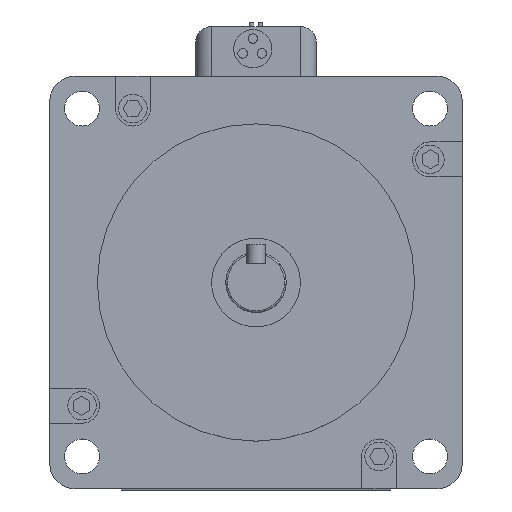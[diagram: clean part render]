
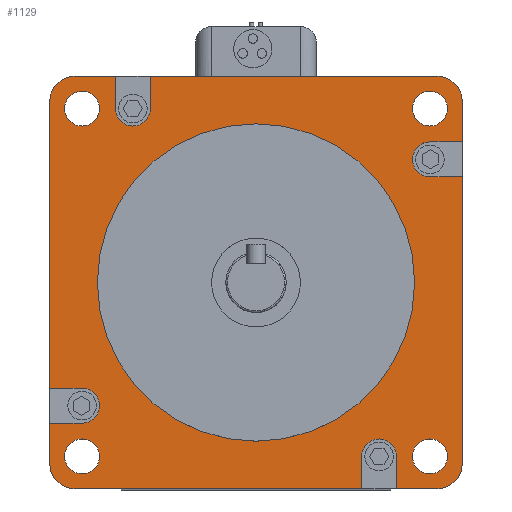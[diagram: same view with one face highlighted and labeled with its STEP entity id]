
A CAD part, top view. The second image highlights one B-rep face of the part: STEP entity #1129.
In plain terms, the highlighted planar face has unit normal (0, 0, 1).
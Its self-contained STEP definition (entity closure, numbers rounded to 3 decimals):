
#361=LINE('',#5838,#741);
#362=LINE('',#5843,#742);
#363=LINE('',#5845,#743);
#364=LINE('',#5849,#744);
#365=LINE('',#5851,#745);
#366=LINE('',#5855,#746);
#367=LINE('',#5857,#747);
#368=LINE('',#5861,#748);
#369=LINE('',#5863,#749);
#370=LINE('',#5867,#750);
#371=LINE('',#5869,#751);
#372=LINE('',#5873,#752);
#373=LINE('',#5875,#753);
#374=LINE('',#5879,#754);
#375=LINE('',#5881,#755);
#376=LINE('',#5885,#756);
#741=VECTOR('',#4547,1.);
#742=VECTOR('',#4550,1.);
#743=VECTOR('',#4551,1.);
#744=VECTOR('',#4554,1.);
#745=VECTOR('',#4555,1.);
#746=VECTOR('',#4558,1.);
#747=VECTOR('',#4559,1.);
#748=VECTOR('',#4562,1.);
#749=VECTOR('',#4563,1.);
#750=VECTOR('',#4566,1.);
#751=VECTOR('',#4567,1.);
#752=VECTOR('',#4570,1.);
#753=VECTOR('',#4571,1.);
#754=VECTOR('',#4574,1.);
#755=VECTOR('',#4575,1.);
#756=VECTOR('',#4578,1.);
#1129=ADVANCED_FACE('',(#1545,#1546,#1547,#1548,#1549,#1550),#1361,.T.);
#1361=PLANE('',#4072);
#1545=FACE_BOUND('',#1705,.T.);
#1546=FACE_BOUND('',#1706,.T.);
#1547=FACE_BOUND('',#1707,.T.);
#1548=FACE_BOUND('',#1708,.T.);
#1549=FACE_BOUND('',#1709,.T.);
#1550=FACE_BOUND('',#1710,.T.);
#1705=EDGE_LOOP('',(#2107,#2108,#2109,#2110,#2111,#2112,#2113,#2114,#2115,
#2116,#2117,#2118,#2119,#2120,#2121,#2122,#2123,#2124,#2125,#2126,#2127,
#2128,#2129,#2130));
#1706=EDGE_LOOP('',(#2131));
#1707=EDGE_LOOP('',(#2132));
#1708=EDGE_LOOP('',(#2133));
#1709=EDGE_LOOP('',(#2134));
#1710=EDGE_LOOP('',(#2135));
#2107=ORIENTED_EDGE('',*,*,#3487,.T.);
#2108=ORIENTED_EDGE('',*,*,#3488,.T.);
#2109=ORIENTED_EDGE('',*,*,#3489,.T.);
#2110=ORIENTED_EDGE('',*,*,#3490,.F.);
#2111=ORIENTED_EDGE('',*,*,#3491,.F.);
#2112=ORIENTED_EDGE('',*,*,#3492,.F.);
#2113=ORIENTED_EDGE('',*,*,#3493,.T.);
#2114=ORIENTED_EDGE('',*,*,#3494,.T.);
#2115=ORIENTED_EDGE('',*,*,#3495,.T.);
#2116=ORIENTED_EDGE('',*,*,#3496,.F.);
#2117=ORIENTED_EDGE('',*,*,#3497,.F.);
#2118=ORIENTED_EDGE('',*,*,#3498,.F.);
#2119=ORIENTED_EDGE('',*,*,#3499,.T.);
#2120=ORIENTED_EDGE('',*,*,#3500,.T.);
#2121=ORIENTED_EDGE('',*,*,#3501,.T.);
#2122=ORIENTED_EDGE('',*,*,#3502,.T.);
#2123=ORIENTED_EDGE('',*,*,#3503,.T.);
#2124=ORIENTED_EDGE('',*,*,#3504,.T.);
#2125=ORIENTED_EDGE('',*,*,#3505,.T.);
#2126=ORIENTED_EDGE('',*,*,#3506,.T.);
#2127=ORIENTED_EDGE('',*,*,#3507,.T.);
#2128=ORIENTED_EDGE('',*,*,#3508,.F.);
#2129=ORIENTED_EDGE('',*,*,#3509,.F.);
#2130=ORIENTED_EDGE('',*,*,#3510,.F.);
#2131=ORIENTED_EDGE('',*,*,#3511,.T.);
#2132=ORIENTED_EDGE('',*,*,#3512,.F.);
#2133=ORIENTED_EDGE('',*,*,#3513,.F.);
#2134=ORIENTED_EDGE('',*,*,#3514,.F.);
#2135=ORIENTED_EDGE('',*,*,#3515,.F.);
#3121=VERTEX_POINT('',#5839);
#3122=VERTEX_POINT('',#5840);
#3123=VERTEX_POINT('',#5842);
#3124=VERTEX_POINT('',#5844);
#3125=VERTEX_POINT('',#5846);
#3126=VERTEX_POINT('',#5848);
#3127=VERTEX_POINT('',#5850);
#3128=VERTEX_POINT('',#5852);
#3129=VERTEX_POINT('',#5854);
#3130=VERTEX_POINT('',#5856);
#3131=VERTEX_POINT('',#5858);
#3132=VERTEX_POINT('',#5860);
#3133=VERTEX_POINT('',#5862);
#3134=VERTEX_POINT('',#5864);
#3135=VERTEX_POINT('',#5866);
#3136=VERTEX_POINT('',#5868);
#3137=VERTEX_POINT('',#5870);
#3138=VERTEX_POINT('',#5872);
#3139=VERTEX_POINT('',#5874);
#3140=VERTEX_POINT('',#5876);
#3141=VERTEX_POINT('',#5878);
#3142=VERTEX_POINT('',#5880);
#3143=VERTEX_POINT('',#5882);
#3144=VERTEX_POINT('',#5884);
#3145=VERTEX_POINT('',#5887);
#3146=VERTEX_POINT('',#5889);
#3147=VERTEX_POINT('',#5891);
#3148=VERTEX_POINT('',#5893);
#3149=VERTEX_POINT('',#5895);
#3487=EDGE_CURVE('',#3121,#3122,#361,.T.);
#3488=EDGE_CURVE('',#3122,#3123,#3916,.T.);
#3489=EDGE_CURVE('',#3123,#3124,#362,.T.);
#3490=EDGE_CURVE('',#3125,#3124,#363,.T.);
#3491=EDGE_CURVE('',#3126,#3125,#3917,.T.);
#3492=EDGE_CURVE('',#3127,#3126,#364,.T.);
#3493=EDGE_CURVE('',#3127,#3128,#365,.T.);
#3494=EDGE_CURVE('',#3128,#3129,#3918,.T.);
#3495=EDGE_CURVE('',#3129,#3130,#366,.T.);
#3496=EDGE_CURVE('',#3131,#3130,#367,.T.);
#3497=EDGE_CURVE('',#3132,#3131,#3919,.T.);
#3498=EDGE_CURVE('',#3133,#3132,#368,.T.);
#3499=EDGE_CURVE('',#3133,#3134,#369,.T.);
#3500=EDGE_CURVE('',#3134,#3135,#3920,.T.);
#3501=EDGE_CURVE('',#3135,#3136,#370,.T.);
#3502=EDGE_CURVE('',#3136,#3137,#371,.T.);
#3503=EDGE_CURVE('',#3137,#3138,#3921,.T.);
#3504=EDGE_CURVE('',#3138,#3139,#372,.T.);
#3505=EDGE_CURVE('',#3139,#3140,#373,.T.);
#3506=EDGE_CURVE('',#3140,#3141,#3922,.T.);
#3507=EDGE_CURVE('',#3141,#3142,#374,.T.);
#3508=EDGE_CURVE('',#3143,#3142,#375,.T.);
#3509=EDGE_CURVE('',#3144,#3143,#3923,.T.);
#3510=EDGE_CURVE('',#3121,#3144,#376,.T.);
#3511=EDGE_CURVE('',#3145,#3145,#3924,.T.);
#3512=EDGE_CURVE('',#3146,#3146,#3925,.T.);
#3513=EDGE_CURVE('',#3147,#3147,#3926,.T.);
#3514=EDGE_CURVE('',#3148,#3148,#3927,.T.);
#3515=EDGE_CURVE('',#3149,#3149,#3928,.T.);
#3916=CIRCLE('',#4059,8.);
#3917=CIRCLE('',#4060,5.5);
#3918=CIRCLE('',#4061,8.);
#3919=CIRCLE('',#4062,5.5);
#3920=CIRCLE('',#4063,8.);
#3921=CIRCLE('',#4064,5.5);
#3922=CIRCLE('',#4065,8.);
#3923=CIRCLE('',#4066,5.5);
#3924=CIRCLE('',#4067,5.5);
#3925=CIRCLE('',#4068,5.5);
#3926=CIRCLE('',#4069,50.);
#3927=CIRCLE('',#4070,5.5);
#3928=CIRCLE('',#4071,5.5);
#4059=AXIS2_PLACEMENT_3D('',#5841,#4548,#4549);
#4060=AXIS2_PLACEMENT_3D('',#5847,#4552,#4553);
#4061=AXIS2_PLACEMENT_3D('',#5853,#4556,#4557);
#4062=AXIS2_PLACEMENT_3D('',#5859,#4560,#4561);
#4063=AXIS2_PLACEMENT_3D('',#5865,#4564,#4565);
#4064=AXIS2_PLACEMENT_3D('',#5871,#4568,#4569);
#4065=AXIS2_PLACEMENT_3D('',#5877,#4572,#4573);
#4066=AXIS2_PLACEMENT_3D('',#5883,#4576,#4577);
#4067=AXIS2_PLACEMENT_3D('',#5886,#4579,#4580);
#4068=AXIS2_PLACEMENT_3D('',#5888,#4581,#4582);
#4069=AXIS2_PLACEMENT_3D('',#5890,#4583,#4584);
#4070=AXIS2_PLACEMENT_3D('',#5892,#4585,#4586);
#4071=AXIS2_PLACEMENT_3D('',#5894,#4587,#4588);
#4072=AXIS2_PLACEMENT_3D('',#5896,#4589,#4590);
#4547=DIRECTION('',(-1.,0.,0.));
#4548=DIRECTION('',(0.,0.,1.));
#4549=DIRECTION('',(1.,0.,0.));
#4550=DIRECTION('',(0.,-1.,0.));
#4551=DIRECTION('',(-1.,0.,0.));
#4552=DIRECTION('',(0.,0.,1.));
#4553=DIRECTION('',(0.,1.,0.));
#4554=DIRECTION('',(1.,0.,0.));
#4555=DIRECTION('',(0.,-1.,0.));
#4556=DIRECTION('',(0.,0.,1.));
#4557=DIRECTION('',(1.,0.,0.));
#4558=DIRECTION('',(1.,0.,0.));
#4559=DIRECTION('',(0.,-1.,0.));
#4560=DIRECTION('',(0.,0.,1.));
#4561=DIRECTION('',(-1.,0.,0.));
#4562=DIRECTION('',(0.,1.,0.));
#4563=DIRECTION('',(1.,0.,0.));
#4564=DIRECTION('',(0.,0.,1.));
#4565=DIRECTION('',(1.,0.,0.));
#4566=DIRECTION('',(0.,1.,0.));
#4567=DIRECTION('',(-1.,0.,0.));
#4568=DIRECTION('',(0.,0.,-1.));
#4569=DIRECTION('',(0.,-1.,0.));
#4570=DIRECTION('',(1.,0.,0.));
#4571=DIRECTION('',(0.,1.,0.));
#4572=DIRECTION('',(0.,0.,1.));
#4573=DIRECTION('',(1.,0.,0.));
#4574=DIRECTION('',(-1.,0.,0.));
#4575=DIRECTION('',(0.,1.,0.));
#4576=DIRECTION('',(0.,0.,1.));
#4577=DIRECTION('',(1.,0.,0.));
#4578=DIRECTION('',(0.,-1.,0.));
#4579=DIRECTION('',(0.,0.,-1.));
#4580=DIRECTION('',(1.,0.,0.));
#4581=DIRECTION('',(0.,0.,1.));
#4582=DIRECTION('',(1.,0.,0.));
#4583=DIRECTION('',(0.,0.,1.));
#4584=DIRECTION('',(1.,0.,0.));
#4585=DIRECTION('',(0.,0.,1.));
#4586=DIRECTION('',(1.,0.,0.));
#4587=DIRECTION('',(0.,0.,1.));
#4588=DIRECTION('',(1.,0.,0.));
#4589=DIRECTION('',(0.,0.,1.));
#4590=DIRECTION('',(1.,0.,0.));
#5838=CARTESIAN_POINT('',(65.,65.,0.));
#5839=CARTESIAN_POINT('',(-44.3,65.,0.));
#5840=CARTESIAN_POINT('',(-57.,65.,0.));
#5841=CARTESIAN_POINT('',(-57.,57.,0.));
#5842=CARTESIAN_POINT('',(-65.,57.,0.));
#5843=CARTESIAN_POINT('',(-65.,65.,0.));
#5844=CARTESIAN_POINT('',(-65.,-33.3,0.));
#5845=CARTESIAN_POINT('',(-54.8,-33.3,0.));
#5846=CARTESIAN_POINT('',(-54.8,-33.3,0.));
#5847=CARTESIAN_POINT('',(-54.8,-38.8,0.));
#5848=CARTESIAN_POINT('',(-54.8,-44.3,0.));
#5849=CARTESIAN_POINT('',(-65.,-44.3,0.));
#5850=CARTESIAN_POINT('',(-65.,-44.3,0.));
#5851=CARTESIAN_POINT('',(-65.,65.,0.));
#5852=CARTESIAN_POINT('',(-65.,-57.,0.));
#5853=CARTESIAN_POINT('',(-57.,-57.,0.));
#5854=CARTESIAN_POINT('',(-57.,-65.,0.));
#5855=CARTESIAN_POINT('',(-65.,-65.,0.));
#5856=CARTESIAN_POINT('',(33.3,-65.,0.));
#5857=CARTESIAN_POINT('',(33.3,-54.8,0.));
#5858=CARTESIAN_POINT('',(33.3,-54.8,0.));
#5859=CARTESIAN_POINT('',(38.8,-54.8,0.));
#5860=CARTESIAN_POINT('',(44.3,-54.8,0.));
#5861=CARTESIAN_POINT('',(44.3,-65.,0.));
#5862=CARTESIAN_POINT('',(44.3,-65.,0.));
#5863=CARTESIAN_POINT('',(-65.,-65.,0.));
#5864=CARTESIAN_POINT('',(57.,-65.,0.));
#5865=CARTESIAN_POINT('',(57.,-57.,0.));
#5866=CARTESIAN_POINT('',(65.,-57.,0.));
#5867=CARTESIAN_POINT('',(65.,-65.,0.));
#5868=CARTESIAN_POINT('',(65.,33.3,0.));
#5869=CARTESIAN_POINT('',(65.,33.3,0.));
#5870=CARTESIAN_POINT('',(54.8,33.3,0.));
#5871=CARTESIAN_POINT('',(54.8,38.8,0.));
#5872=CARTESIAN_POINT('',(54.8,44.3,0.));
#5873=CARTESIAN_POINT('',(54.8,44.3,0.));
#5874=CARTESIAN_POINT('',(65.,44.3,0.));
#5875=CARTESIAN_POINT('',(65.,-65.,0.));
#5876=CARTESIAN_POINT('',(65.,57.,0.));
#5877=CARTESIAN_POINT('',(57.,57.,0.));
#5878=CARTESIAN_POINT('',(57.,65.,0.));
#5879=CARTESIAN_POINT('',(65.,65.,0.));
#5880=CARTESIAN_POINT('',(-33.3,65.,0.));
#5881=CARTESIAN_POINT('',(-33.3,54.8,0.));
#5882=CARTESIAN_POINT('',(-33.3,54.8,0.));
#5883=CARTESIAN_POINT('',(-38.8,54.8,0.));
#5884=CARTESIAN_POINT('',(-44.3,54.8,0.));
#5885=CARTESIAN_POINT('',(-44.3,65.,0.));
#5886=CARTESIAN_POINT('',(-54.8,-54.8,0.));
#5887=CARTESIAN_POINT('',(-49.3,-54.8,0.));
#5888=CARTESIAN_POINT('',(54.8,54.8,0.));
#5889=CARTESIAN_POINT('',(60.3,54.8,0.));
#5890=CARTESIAN_POINT('',(0.,0.,0.));
#5891=CARTESIAN_POINT('',(50.,0.,0.));
#5892=CARTESIAN_POINT('',(54.8,-54.8,0.));
#5893=CARTESIAN_POINT('',(60.3,-54.8,0.));
#5894=CARTESIAN_POINT('',(-54.8,54.8,0.));
#5895=CARTESIAN_POINT('',(-49.3,54.8,0.));
#5896=CARTESIAN_POINT('',(65.,-65.,0.));
